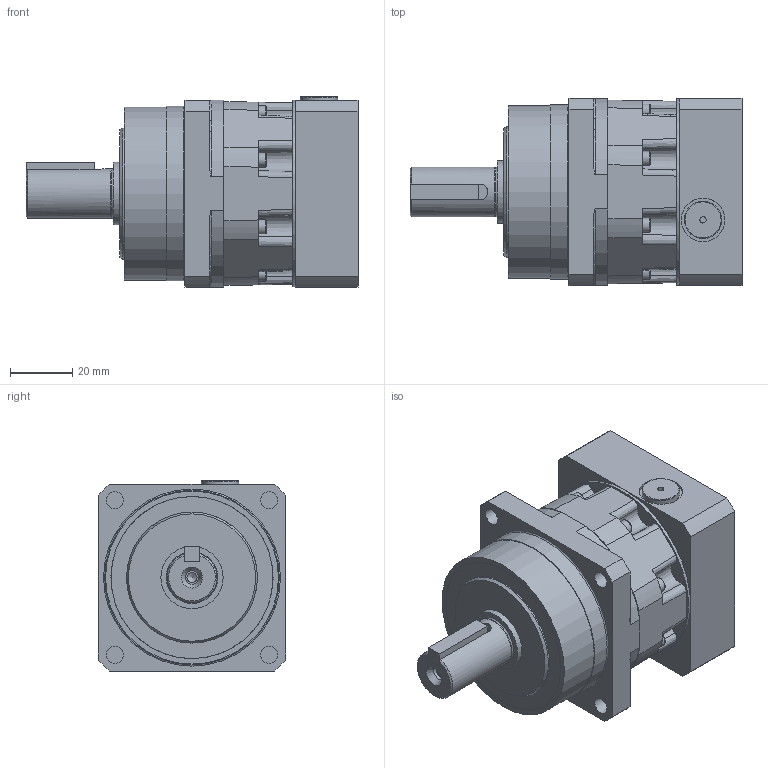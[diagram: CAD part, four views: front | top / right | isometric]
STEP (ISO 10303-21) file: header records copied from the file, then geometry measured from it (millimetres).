
FILE_DESCRIPTION(/* description */ ('ANFX-P110W-1-H10G'),/* implementation_level */ '2;1');
FILE_NAME(/* name */ 'C:\Users\ADMINI~1\AppData\Local\Temp\MM578602_ANFX-P110W-1-H10G.stp',/* time_stamp */ '2018-06-20T09:13:14+02:00',/* author */ ('Max'),/* organization */ (''),/* preprocessor_version */ 'ST-DEVELOPER v17',/* originating_system */ 'Autodesk Inventor 2018',/* authorisation */ '');
FILE_SCHEMA (('AUTOMOTIVE_DESIGN { 1 0 10303 214 3 1 1 }'));
Length unit declared in the file: millimetre
Products named in the file (17): MM78602; MMBG0004130; MMCL239LG; MMCL433LG; MAW8353G; MAX4839G; M233C0505022NG; MMBG0004131; MMCH473LG; MMAP6508G; 009M004R012NG; 202119; ISO 4762 - M2,5 x 16; 530N20357---G; 139324; MAW8386G; 211554
Assembly tree (30 placements, depth 3):
  MM78602
    MMBG0004130
      MMCL239LG
      MMCL433LG
      MAW8353G
      MAX4839G
      M233C0505022NG
    MMBG0004131
      MMCH473LG
      MMAP6508G
      009M004R012NG
      202119
      ISO 4762 - M2,5 x 16  x8
      530N20357---G
    139324
    MAW8386G
    211554  x8
Bounding box: 106.5 x 60 x 61 mm (x, y, z)
Volume: 154974.2 mm3; surface area: 86257.4 mm2
Topology: 97 solids, 98 shells, 687 faces, 1950 edges, 1374 vertices
Faces by surface type: plane 272, cylinder 172, cone 99, sphere 68, torus 60, bspline 16
Full cylindrical faces by diameter (mm): 2 x1, 2.013 x8, 2.459 x1, 2.5 x8, 3 x8, 3.242 x14, 4 x9, 4.3 x1, 4.5 x17, 5.5 x4, 7 x9, 8 x8, 9.8 x1, 10 x1, 10.2 x1, 10.4 x1, 12 x1, 14 x1, 14.5 x1, 16 x1, 17.5 x1, 19 x1, 19.4 x1, 19.6 x1, 20 x3, 20.5 x1, 25.172 x2, 27.5 x4, 28 x1, 32 x1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
Entity records: 18744 total; most frequent: CARTESIAN_POINT 5434, DIRECTION 2810, ORIENTED_EDGE 2432, AXIS2_PLACEMENT_3D 1230, EDGE_CURVE 1216, VERTEX_POINT 968, CIRCLE 722, EDGE_LOOP 606
